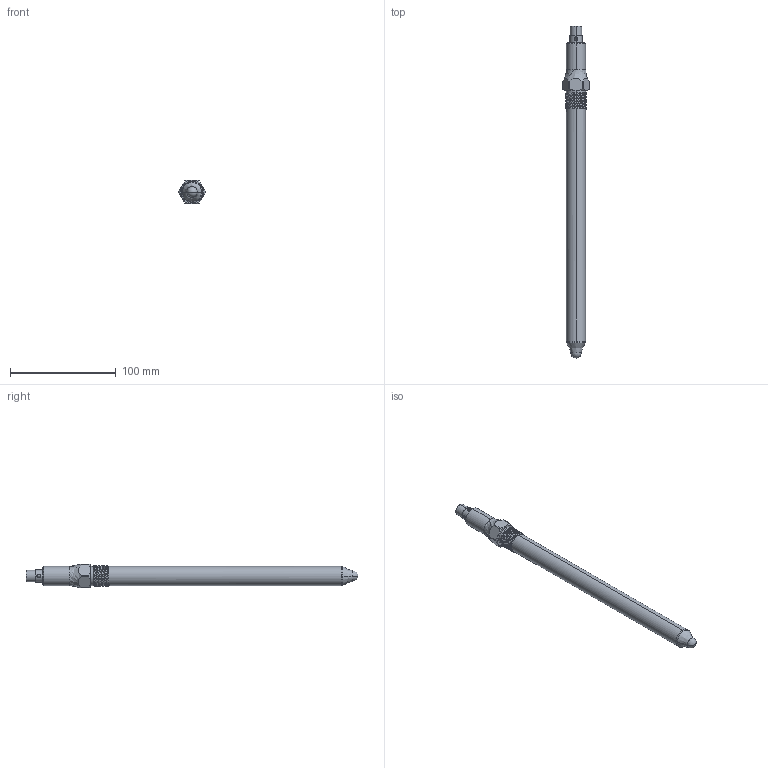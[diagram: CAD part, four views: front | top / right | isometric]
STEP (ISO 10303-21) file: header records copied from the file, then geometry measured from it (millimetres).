
FILE_DESCRIPTION (( 'STEP AP203' ), '1' );
FILE_NAME ('h250.STEP', '2025-08-13T09:24:02', ( '' ), ( '' ), 'SwSTEP 2.0', 'SolidWorks 2024', '' );
FILE_SCHEMA (( 'CONFIG_CONTROL_DESIGN' ));
Length unit declared in the file: millimetre
Products named in the file (1): h250
Bounding box: 24.83 x 314 x 22 mm (x, y, z)
Volume: 76846.6 mm3; surface area: 19036.6 mm2
Topology: 1 solids, 1 shells, 92 faces, 260 edges, 165 vertices
Faces by surface type: cylinder 47, plane 20, sphere 10, cone 8, bspline 7
Entity records: 4974 total; most frequent: CARTESIAN_POINT 2843, ORIENTED_EDGE 480, DIRECTION 370, EDGE_CURVE 240, VERTEX_POINT 155, AXIS2_PLACEMENT_3D 148, EDGE_LOOP 105, ADVANCED_FACE 92
